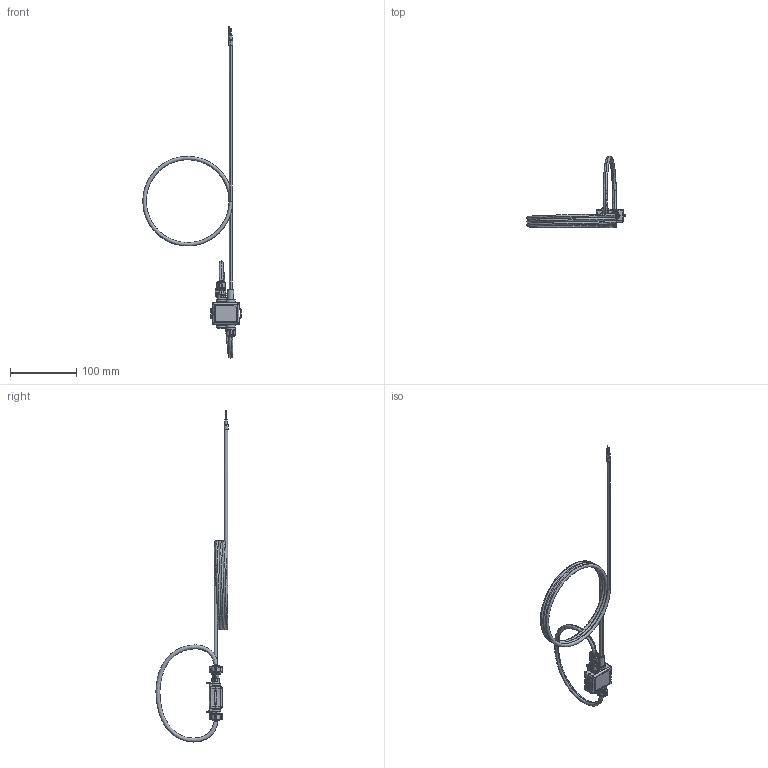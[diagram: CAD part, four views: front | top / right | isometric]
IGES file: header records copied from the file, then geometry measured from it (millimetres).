
Start section: Elysium IGES Interface
Global section: file name: C:\Users\vbo\Desktop\CAD CUSTOMER D70.igs; native system: Creo Elements/Direct Modeling 20.1  10-Mar-2018; preprocessor: Creo Element/Direct IGES_3D V2.2; author: Unknown; organization: Unknown; date: 20200529.173048; units: millimetre
Bounding box: 148.25 x 108.68 x 500.59 mm (x, y, z)
Volume: 69971.6 mm3; surface area: 47748.3 mm2
Topology: 1 solids, 10 shells, 1124 faces, 3015 edges, 1894 vertices
Faces by surface type: bspline 1124
